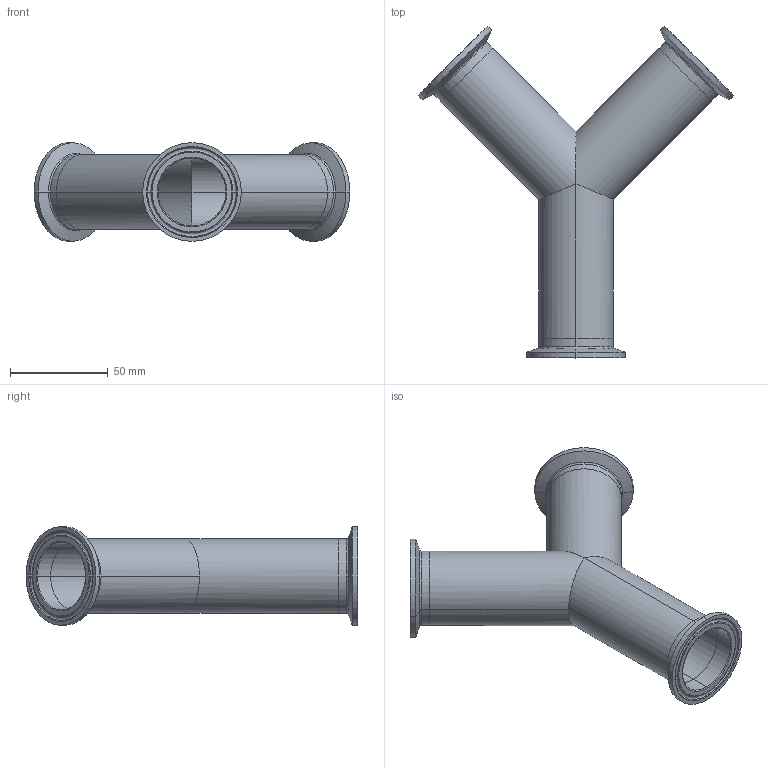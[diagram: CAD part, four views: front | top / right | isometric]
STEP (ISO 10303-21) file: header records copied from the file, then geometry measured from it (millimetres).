
FILE_DESCRIPTION (( 'STEP AP214' ), '1' );
FILE_NAME ('TEG28B6L1.5-...STEP', '2016-05-25T04:42:48', ( 'eran' ), ( '' ), 'SwSTEP 2.0', 'SolidWorks 2016', '' );
FILE_SCHEMA (( 'AUTOMOTIVE_DESIGN' ));
Length unit declared in the file: millimetre
Products named in the file (1): TEG28B6L1.5-..
Bounding box: 161.36 x 169.58 x 50.39 mm (x, y, z)
Volume: 55889 mm3; surface area: 62844.9 mm2
Topology: 4 solids, 4 shells, 90 faces, 200 edges, 120 vertices
Faces by surface type: cylinder 30, bspline 30, cone 18, plane 12
Entity records: 4450 total; most frequent: CARTESIAN_POINT 2469, DIRECTION 414, ORIENTED_EDGE 400, EDGE_CURVE 200, AXIS2_PLACEMENT_3D 183, CIRCLE 122, VERTEX_POINT 120, EDGE_LOOP 102
